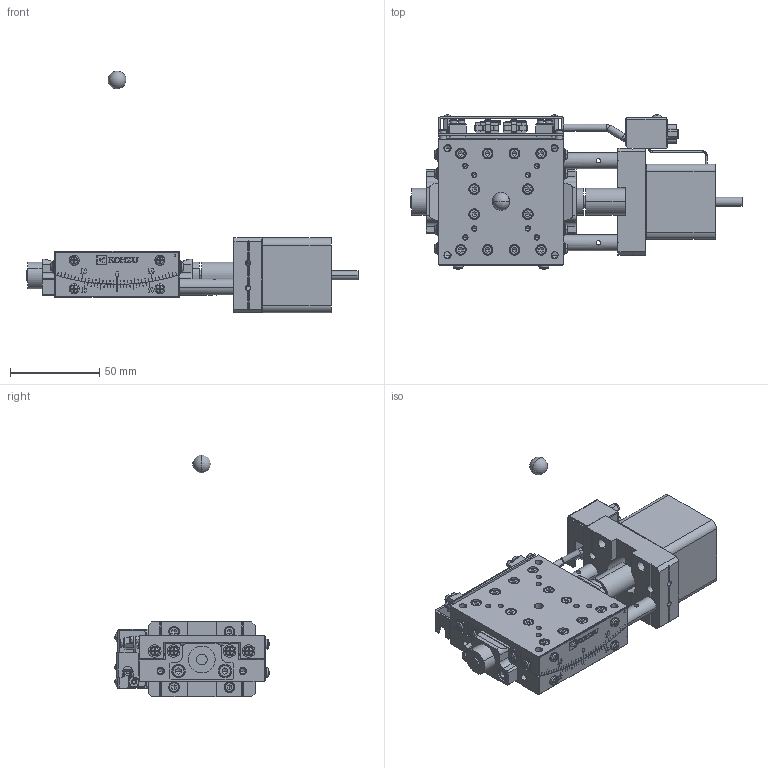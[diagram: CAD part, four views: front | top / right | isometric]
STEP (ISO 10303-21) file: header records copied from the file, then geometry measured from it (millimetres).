
FILE_DESCRIPTION( (''), '2;1');
FILE_NAME ('MVSA07A-RM02.stp','2022-04-04T17:54:10',(''),(''),'spGate 17.5.5','','');
FILE_SCHEMA (('AUTOMOTIVE_DESIGN'));
Length unit declared in the file: millimetre
Products named in the file (4): Assembly; MVSA07A-RM02-prt0; MVSA07A-RM02-prt1; MVSA07A-RM02-prt2
Assembly tree (3 placements, depth 2):
  Assembly
    MVSA07A-RM02-prt0
    MVSA07A-RM02-prt1
    MVSA07A-RM02-prt2
Bounding box: 186 x 86.47 x 135.5 mm (x, y, z)
Volume: 245256.7 mm3; surface area: 76725.7 mm2
Topology: 3 solids, 5 shells, 3434 faces, 8584 edges, 5268 vertices
Faces by surface type: plane 2006, cylinder 863, bspline 501, sphere 64
Entity records: 173303 total; most frequent: CARTESIAN_POINT 26620, ORIENTED_EDGE 16836, DIRECTION 15579, COLOUR_RGB 11855, PRESENTATION_STYLE_ASSIGNMENT 11855, STYLED_ITEM 11855, EDGE_CURVE 8418, DRAUGHTING_PRE_DEFINED_CURVE_FONT 8418
